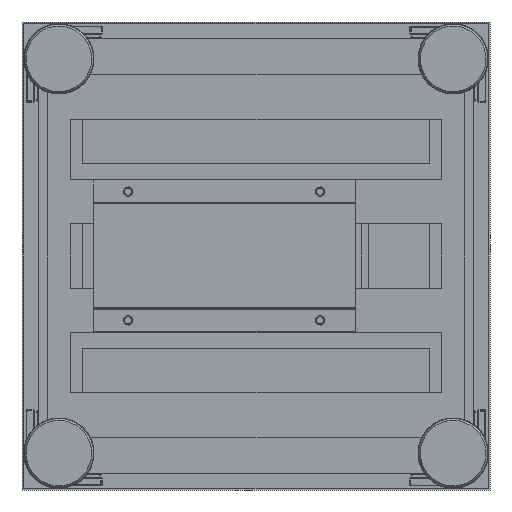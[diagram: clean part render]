
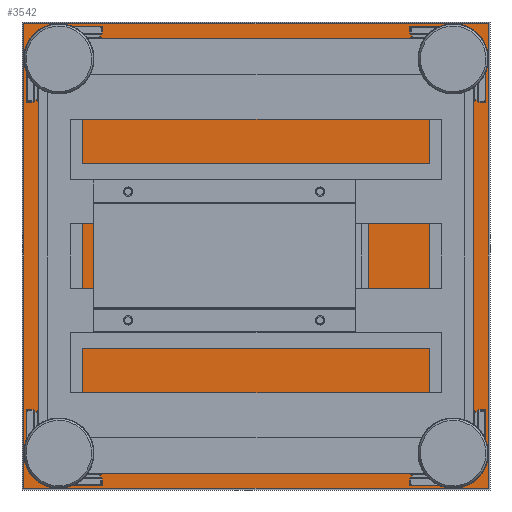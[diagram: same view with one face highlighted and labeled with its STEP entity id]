
A CAD part, front view. The second image highlights one B-rep face of the part: STEP entity #3542.
In plain terms, the highlighted planar face has unit normal (0, -1, 0).
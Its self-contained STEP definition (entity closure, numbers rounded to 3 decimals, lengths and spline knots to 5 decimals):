
#3542=ADVANCED_FACE('204:3049',(#5674),#5675,.F.);
#5674=FACE_OUTER_BOUND('',#11498,.T.);
#5675=PLANE('',#11499);
#11498=EDGE_LOOP('',(#14656,#14657,#14658,#14659));
#11499=AXIS2_PLACEMENT_3D('',#14660,#14661,#14662);
#14656=ORIENTED_EDGE('',*,*,#21892,.T.);
#14657=ORIENTED_EDGE('',*,*,#21893,.T.);
#14658=ORIENTED_EDGE('',*,*,#21894,.F.);
#14659=ORIENTED_EDGE('',*,*,#21895,.F.);
#14660=CARTESIAN_POINT('',(0.0,-0.0015,0.0));
#14661=DIRECTION('',(0.0,1.0,0.0));
#14662=DIRECTION('',(0.0,0.0,1.0));
#21892=EDGE_CURVE('204:3112',#26334,#26335,#26336,.T.);
#21893=EDGE_CURVE('204:3115',#26335,#26337,#26338,.T.);
#21894=EDGE_CURVE('204:3118',#26339,#26337,#26340,.F.);
#21895=EDGE_CURVE('204:3121',#26334,#26339,#26341,.F.);
#26334=VERTEX_POINT('',#32024);
#26335=VERTEX_POINT('',#32025);
#26336=LINE('',#32026,#32027);
#26337=VERTEX_POINT('',#32028);
#26338=LINE('',#32029,#32030);
#26339=VERTEX_POINT('',#32031);
#26340=LINE('',#32032,#32033);
#26341=LINE('',#32034,#32035);
#32024=CARTESIAN_POINT('',(0.1985,-0.0015,-0.1985));
#32025=CARTESIAN_POINT('',(0.1985,-0.0015,0.1985));
#32026=CARTESIAN_POINT('',(0.1985,-0.0015,0.));
#32027=VECTOR('',#35465,1.0);
#32028=CARTESIAN_POINT('',(-0.1985,-0.0015,0.1985));
#32029=CARTESIAN_POINT('',(0.,-0.0015,0.1985));
#32030=VECTOR('',#35466,1.0);
#32031=CARTESIAN_POINT('',(-0.1985,-0.0015,-0.1985));
#32032=CARTESIAN_POINT('',(-0.1985,-0.0015,0.));
#32033=VECTOR('',#35467,1.0);
#32034=CARTESIAN_POINT('',(0.,-0.0015,-0.1985));
#32035=VECTOR('',#35468,1.0);
#35465=DIRECTION('',(0.0,0.0,1.0));
#35466=DIRECTION('',(-1.0,0.0,0.));
#35467=DIRECTION('',(0.0,0.0,-1.0));
#35468=DIRECTION('',(1.0,-0.0,0.));
